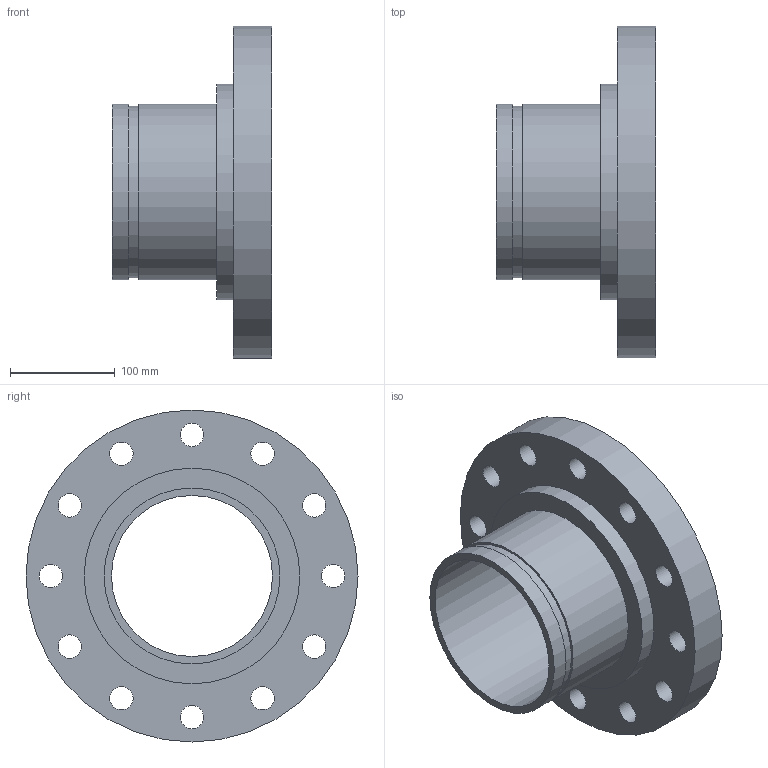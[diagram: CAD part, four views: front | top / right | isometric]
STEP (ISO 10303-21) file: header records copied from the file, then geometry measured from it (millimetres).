
FILE_DESCRIPTION(/* description */ ('VIC FLANGE ADAPTER No 46F','CAx-IF Rec.Pracs.---Representation and Presentation of Product Manufacturing Information (PMI)---4.0---2014-10-13'),/* implementation_level */ '2;1');
FILE_NAME(/* name */ 'C:\Users\kkamble\AppData\Roaming\Autodesk\ApplicationPlugins\Back Up\Victaulic_IPS_Flanged Adapter Nipple_CL 300 FF_No 46F (OGSxFLG)\Victaulic_IPS_Flanged Adapter Nipple_CL 300 FF_No 46F (OGSxFLG)_6 (150).stp',/* time_stamp */ '2020-07-26T22:25:00+06:00',/* author */ ('CONSTRUCTION PIPING SERVICES'),/* organization */ ('Victaulic'),/* preprocessor_version */ 'ST-DEVELOPER v17.2',/* originating_system */ 'Autodesk Inventor 2019',/* authorisation */ '');
FILE_SCHEMA (('AP242_MANAGED_MODEL_BASED_3D_ENGINEERING_MIM_LF { 1 0 10303 442 1 1 4 }'));
Length unit declared in the file: inch
Products named in the file (1): 046F-06.0
Bounding box: 152.4 x 317.5 x 317.5 mm (x, y, z)
Volume: 2624108.3 mm3; surface area: 317944.4 mm2
Topology: 1 solids, 1 shells, 24 faces, 66 edges, 48 vertices
Faces by surface type: cylinder 18, plane 6
Full cylindrical faces by diameter (mm): 22.352 x12, 154.051 x1, 163.957 x1, 168.275 x2, 206.248 x1, 317.5 x1
Entity records: 942 total; most frequent: DIRECTION 164, CARTESIAN_POINT 139, ORIENTED_EDGE 132, AXIS2_PLACEMENT_3D 73, EDGE_CURVE 66, EDGE_LOOP 54, CIRCLE 48, VERTEX_POINT 48
